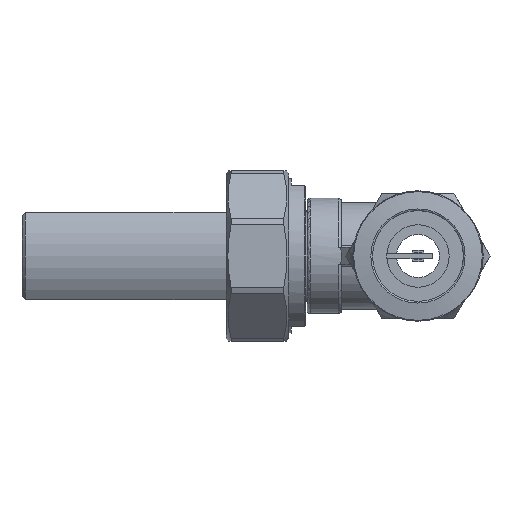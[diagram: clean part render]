
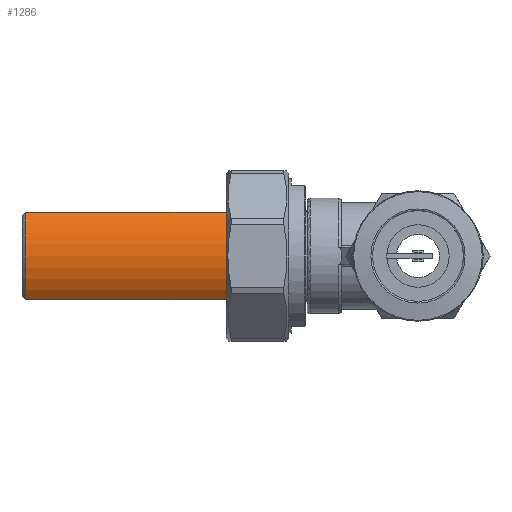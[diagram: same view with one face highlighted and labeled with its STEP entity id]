
A CAD part, left-side view. The second image highlights one B-rep face of the part: STEP entity #1286.
In plain terms, the highlighted cylindrical face has radius 12.5 mm (diameter 25 mm), a partial arc.
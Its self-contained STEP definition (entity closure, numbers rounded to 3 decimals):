
#375=LINE('',#12223,#621);
#376=LINE('',#12227,#622);
#621=VECTOR('',#6026,1.);
#622=VECTOR('',#6029,1.);
#858=CYLINDRICAL_SURFACE('',#4916,12.5);
#1013=FACE_OUTER_BOUND('',#2024,.T.);
#1286=ADVANCED_FACE('',(#1013),#858,.T.);
#2024=EDGE_LOOP('',(#3073,#3074,#3075,#3076));
#3073=ORIENTED_EDGE('',*,*,#4198,.T.);
#3074=ORIENTED_EDGE('',*,*,#4199,.F.);
#3075=ORIENTED_EDGE('',*,*,#4200,.F.);
#3076=ORIENTED_EDGE('',*,*,#4201,.F.);
#3630=VERTEX_POINT('',#12221);
#3631=VERTEX_POINT('',#12222);
#3632=VERTEX_POINT('',#12224);
#3633=VERTEX_POINT('',#12226);
#4198=EDGE_CURVE('',#3630,#3631,#4460,.T.);
#4199=EDGE_CURVE('',#3632,#3631,#375,.T.);
#4200=EDGE_CURVE('',#3633,#3632,#4461,.T.);
#4201=EDGE_CURVE('',#3630,#3633,#376,.T.);
#4460=CIRCLE('',#4914,12.5);
#4461=CIRCLE('',#4915,12.5);
#4914=AXIS2_PLACEMENT_3D('',#12220,#6024,#6025);
#4915=AXIS2_PLACEMENT_3D('',#12225,#6027,#6028);
#4916=AXIS2_PLACEMENT_3D('',#12228,#6030,#6031);
#6024=DIRECTION('',(0.,-1.,0.));
#6025=DIRECTION('',(-0.788,0.,0.616));
#6026=DIRECTION('',(0.,1.,0.));
#6027=DIRECTION('',(0.,-1.,0.));
#6028=DIRECTION('',(-0.788,0.,0.616));
#6029=DIRECTION('',(0.,-1.,0.));
#6030=DIRECTION('',(0.,1.,0.));
#6031=DIRECTION('',(-0.788,0.,-0.616));
#12220=CARTESIAN_POINT('',(0.,69.2,0.));
#12221=CARTESIAN_POINT('',(-9.847,69.2,7.7));
#12222=CARTESIAN_POINT('',(-9.847,69.2,-7.7));
#12223=CARTESIAN_POINT('',(-9.847,33.8,-7.7));
#12224=CARTESIAN_POINT('',(-9.847,33.8,-7.7));
#12225=CARTESIAN_POINT('',(0.,33.8,0.));
#12226=CARTESIAN_POINT('',(-9.847,33.8,7.7));
#12227=CARTESIAN_POINT('',(-9.847,69.2,7.7));
#12228=CARTESIAN_POINT('',(0.,33.8,0.));
